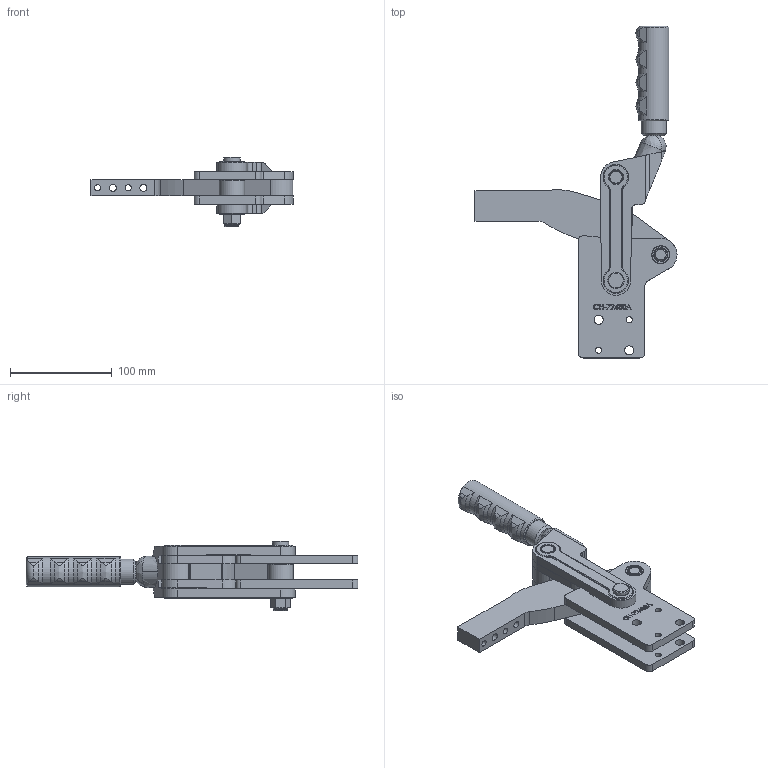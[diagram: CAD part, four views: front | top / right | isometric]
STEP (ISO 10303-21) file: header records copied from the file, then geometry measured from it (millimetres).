
FILE_DESCRIPTION(/* description */ ('STEP AP203'),/* implementation_level */ '2;1');
FILE_NAME(/* name */ 'E:\CAD_CLAMPS\Heavy duty weldables\CH-72430A_DODAC\CH-72430A_ZAMKNIETY.stp',/* time_stamp */ '2019-03-11T14:21:54+01:00',/* author */ ('Admin'),/* organization */ ('Î¢ÈíÖÐ¹ú'),/* preprocessor_version */ 'ST-DEVELOPER v17.2',/* originating_system */ 'Autodesk Inventor 2019',/* authorisation */ '');
FILE_SCHEMA (('AUTOMOTIVE_DESIGN { 1 0 10303 214 3 1 1 }'));
Products named in the file (12): CH-72430A_ZAMKNIETY; 72425-11; 72425-09; M12; 72425-10; 72425-08; 72425-03; 72425-04; 72425-06; CH-72430A-02; CH-72430A-01; 72425-07
Assembly tree (20 placements, depth 2):
  CH-72430A_ZAMKNIETY
    72425-11
    72425-06  x8
    72425-03  x2
    72425-09
    M12
    72425-10
    72425-08  x2
    72425-04
    CH-72430A-02
    CH-72430A-01
    72425-07
Bounding box: 198.5 x 326.2 x 68.5 mm (x, y, z)
Volume: 515390 mm3; surface area: 161895.7 mm2
Topology: 21 solids, 21 shells, 4751 faces, 13614 edges, 9102 vertices
Faces by surface type: plane 2772, cylinder 1818, bspline 56, cone 54, torus 51
Full cylindrical faces by diameter (mm): 6 x6, 7 x2, 9 x4, 10.5 x5, 11.5 x1, 12.5 x4, 13 x15, 13.2 x1, 13.8 x1, 16 x1, 18 x8, 24.6 x1, 25 x2, 29.8 x1
Entity records: 72791 total; most frequent: CARTESIAN_POINT 22546, DIRECTION 10552, ORIENTED_EDGE 10504, EDGE_CURVE 5252, AXIS2_PLACEMENT_3D 3640, VERTEX_POINT 3516, LINE 3272, VECTOR 3272
